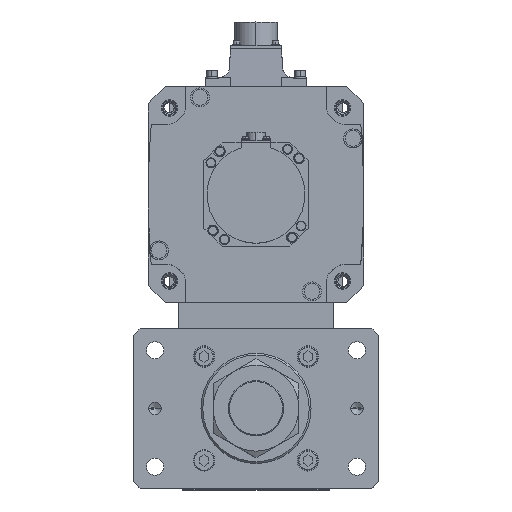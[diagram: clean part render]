
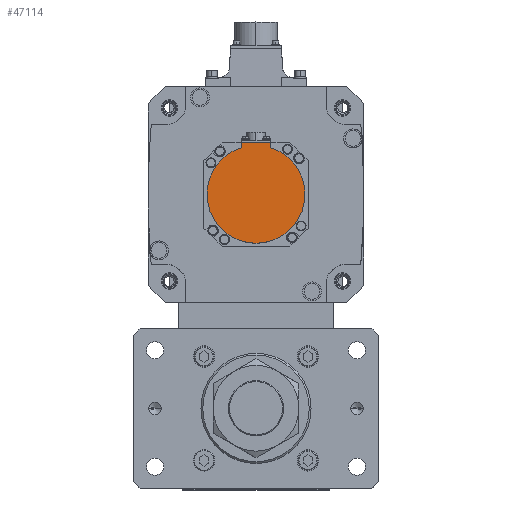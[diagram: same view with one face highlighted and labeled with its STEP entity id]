
A CAD part, top view. The second image highlights one B-rep face of the part: STEP entity #47114.
In plain terms, the highlighted planar face has unit normal (0, 0, 1) as drawn and (0, 0, -1) by its records, which use the part's own axes.
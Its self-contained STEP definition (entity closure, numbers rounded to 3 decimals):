
#36 = CARTESIAN_POINT ( 'NONE',  ( -12., -38.158, -138.5 ) ) ;
#57 = AXIS2_PLACEMENT_3D ( 'NONE', #10111, #41784, #25699 ) ;
#2383 = CARTESIAN_POINT ( 'NONE',  ( 0., 0., -138.5 ) ) ;
#2863 = VERTEX_POINT ( 'NONE', #36 ) ;
#5988 = ORIENTED_EDGE ( 'NONE', *, *, #14285, .F. ) ;
#7281 = VECTOR ( 'NONE', #33335, 1000. ) ;
#9545 = EDGE_CURVE ( 'NONE', #16641, #2863, #13590, .T. ) ;
#10111 = CARTESIAN_POINT ( 'NONE',  ( 0., 0., -138.5 ) ) ;
#10116 = EDGE_LOOP ( 'NONE', ( #51883, #5988, #33152, #16428, #17701, #34493 ) ) ;
#10349 = VERTEX_POINT ( 'NONE', #31313 ) ;
#10416 = AXIS2_PLACEMENT_3D ( 'NONE', #14031, #46625, #18392 ) ;
#11353 = DIRECTION ( 'NONE',  ( 0., 1., 0. ) ) ;
#12522 = VERTEX_POINT ( 'NONE', #20095 ) ;
#13516 = CARTESIAN_POINT ( 'NONE',  ( -40., 0., -138.5 ) ) ;
#13590 = LINE ( 'NONE', #33160, #7281 ) ;
#13901 = VECTOR ( 'NONE', #39079, 1000. ) ;
#14031 = CARTESIAN_POINT ( 'NONE',  ( 0., 0., -138.5 ) ) ;
#14285 = EDGE_CURVE ( 'NONE', #18013, #2863, #33031, .T. ) ;
#14795 = CARTESIAN_POINT ( 'NONE',  ( 0., -1.249, -138.5 ) ) ;
#16428 = ORIENTED_EDGE ( 'NONE', *, *, #35458, .F. ) ;
#16641 = VERTEX_POINT ( 'NONE', #33009 ) ;
#17536 = VECTOR ( 'NONE', #11353, 1000. ) ;
#17701 = ORIENTED_EDGE ( 'NONE', *, *, #45067, .F. ) ;
#18013 = VERTEX_POINT ( 'NONE', #13516 ) ;
#18392 = DIRECTION ( 'NONE',  ( 1., 0., 0. ) ) ;
#20095 = CARTESIAN_POINT ( 'NONE',  ( 12., -38.158, -138.5 ) ) ;
#24418 = LINE ( 'NONE', #31278, #17536 ) ;
#25699 = DIRECTION ( 'NONE',  ( 1., 0., 0. ) ) ;
#25981 = VERTEX_POINT ( 'NONE', #35276 ) ;
#30471 = DIRECTION ( 'NONE',  ( 0., 0., 1. ) ) ;
#31278 = CARTESIAN_POINT ( 'NONE',  ( 12., -1.249, -138.5 ) ) ;
#31313 = CARTESIAN_POINT ( 'NONE',  ( 12., -42.5, -138.5 ) ) ;
#33009 = CARTESIAN_POINT ( 'NONE',  ( -12., -42.5, -138.5 ) ) ;
#33031 = CIRCLE ( 'NONE', #57, 40. ) ;
#33152 = ORIENTED_EDGE ( 'NONE', *, *, #38816, .F. ) ;
#33160 = CARTESIAN_POINT ( 'NONE',  ( -12., -40.329, -138.5 ) ) ;
#33248 = EDGE_CURVE ( 'NONE', #10349, #16641, #40203, .T. ) ;
#33335 = DIRECTION ( 'NONE',  ( 0., 1., 0. ) ) ;
#34493 = ORIENTED_EDGE ( 'NONE', *, *, #33248, .T. ) ;
#34504 = DIRECTION ( 'NONE',  ( 1., 0., 0. ) ) ;
#35276 = CARTESIAN_POINT ( 'NONE',  ( 40., 0., -138.5 ) ) ;
#35458 = EDGE_CURVE ( 'NONE', #12522, #25981, #42520, .T. ) ;
#38816 = EDGE_CURVE ( 'NONE', #25981, #18013, #43068, .T. ) ;
#39079 = DIRECTION ( 'NONE',  ( -1., 0., 0. ) ) ;
#39125 = PLANE ( 'NONE',  #45724 ) ;
#40203 = LINE ( 'NONE', #43289, #13901 ) ;
#41784 = DIRECTION ( 'NONE',  ( 0., 0., 1. ) ) ;
#42520 = CIRCLE ( 'NONE', #47886, 40. ) ;
#42528 = FACE_OUTER_BOUND ( 'NONE', #10116, .T. ) ;
#42631 = DIRECTION ( 'NONE',  ( 0., 0., 1. ) ) ;
#43068 = CIRCLE ( 'NONE', #10416, 40. ) ;
#43289 = CARTESIAN_POINT ( 'NONE',  ( 0., -42.5, -138.5 ) ) ;
#45067 = EDGE_CURVE ( 'NONE', #10349, #12522, #24418, .T. ) ;
#45724 = AXIS2_PLACEMENT_3D ( 'NONE', #14795, #42631, #47228 ) ;
#46625 = DIRECTION ( 'NONE',  ( 0., 0., 1. ) ) ;
#47114 = ADVANCED_FACE ( 'NONE', ( #42528 ), #39125, .F. ) ;
#47228 = DIRECTION ( 'NONE',  ( 1., 0., 0. ) ) ;
#47886 = AXIS2_PLACEMENT_3D ( 'NONE', #2383, #30471, #34504 ) ;
#51883 = ORIENTED_EDGE ( 'NONE', *, *, #9545, .T. ) ;
